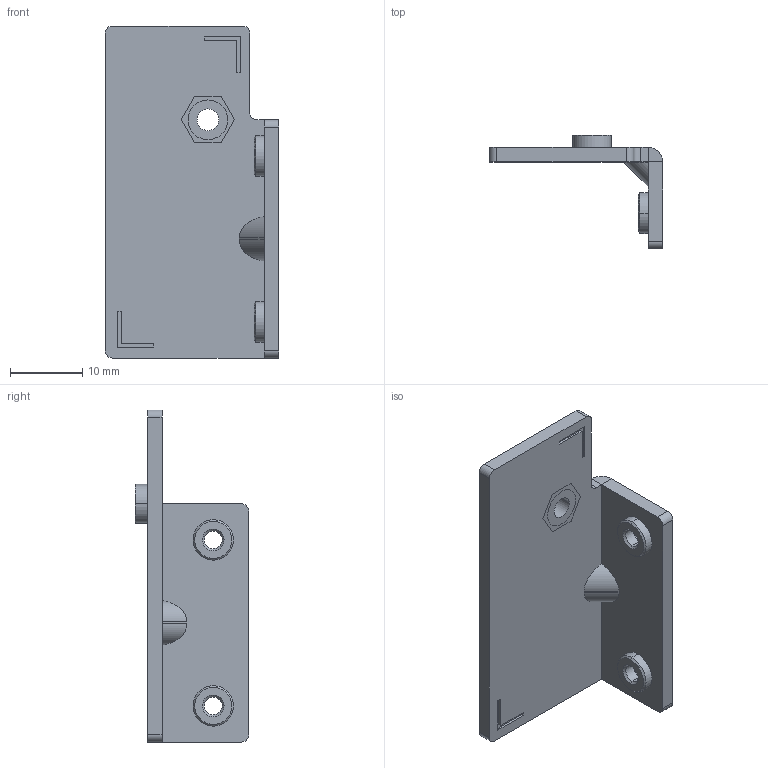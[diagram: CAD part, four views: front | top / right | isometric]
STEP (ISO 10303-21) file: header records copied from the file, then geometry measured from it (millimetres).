
FILE_DESCRIPTION((''),'2;1');
FILE_NAME('BKT_BLED_BOARD_ASM_ASM','2019-12-03T',('Wayne'),(''),'CREO PARAMETRIC BY PTC INC, 2014350','CREO PARAMETRIC BY PTC INC, 2014350','');
FILE_SCHEMA(('AUTOMOTIVE_DESIGN { 1 0 10303 214 1 1 1 1 }'));
Length unit declared in the file: millimetre
Products named in the file (7): MSBR-6; MSBR-5; MSBR-4; MSBR-3; MSBR-2; MSBR-1; BKT_BLED_BOARD_ASM_ASM
Assembly tree (6 placements, depth 2):
  BKT_BLED_BOARD_ASM_ASM
    MSBR-6
    MSBR-5
    MSBR-4
    MSBR-3
    MSBR-2
    MSBR-1
Bounding box: 24 x 15.7 x 46 mm (x, y, z)
Volume: 2891.6 mm3; surface area: 3533.7 mm2
Topology: 4 solids, 4 shells, 122 faces, 287 edges, 183 vertices
Faces by surface type: plane 64, cylinder 40, cone 18
Entity records: 4546 total; most frequent: CARTESIAN_POINT 712, DIRECTION 636, ORIENTED_EDGE 574, EDGE_CURVE 287, AXIS2_PLACEMENT_3D 224, VECTOR 188, LINE 188, VERTEX_POINT 183
